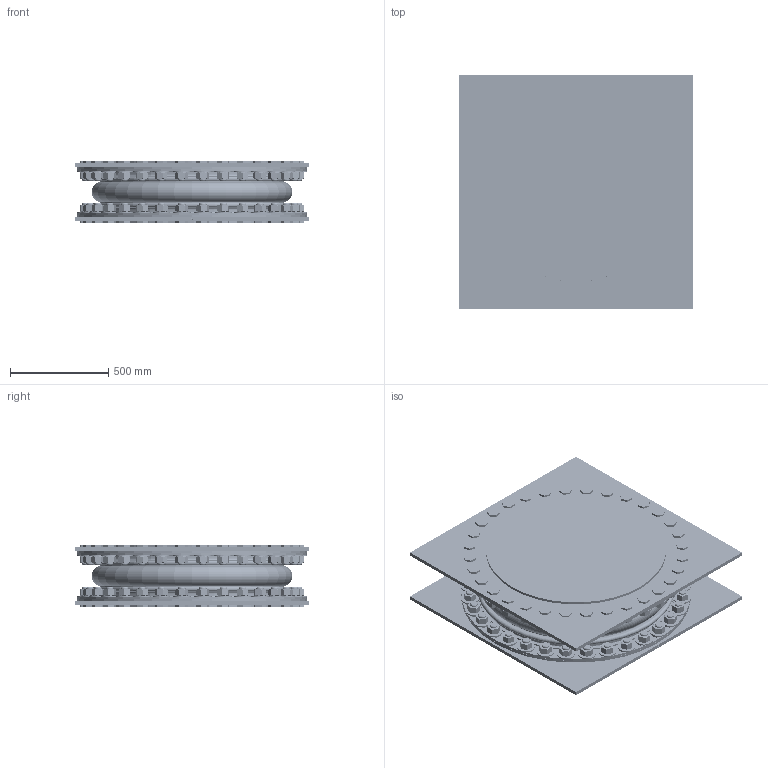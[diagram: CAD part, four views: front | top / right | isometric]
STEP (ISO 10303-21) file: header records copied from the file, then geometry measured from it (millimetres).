
FILE_DESCRIPTION(/* description */ (''),/* implementation_level */ '2;1');
FILE_NAME(/* name */ '\\Mleuckthor2\cad-proe_solids\WEBSITE FILES 05.22.13\STEP\451AS\451AS-36.stp',/* time_stamp */ '2016-01-18T22:23:36-05:00',/* author */ ('rramoutar'),/* organization */ ('Mason Industries Inc.'),/* preprocessor_version */ 'ST-DEVELOPER v15.6',/* originating_system */ 'Autodesk Inventor 2015',/* authorisation */ '');
FILE_SCHEMA (('CONFIG_CONTROL_DESIGN'));
Products named in the file (1): 451AS-36
Bounding box: 1193.8 x 1193.8 x 317.5 mm (x, y, z)
Volume: 116917300 mm3; surface area: 17672562.4 mm2
Topology: 200 solids, 202 shells, 4790 faces, 10948 edges, 6738 vertices
Faces by surface type: plane 1892, cylinder 1558, cone 1024, bspline 234, torus 82
Full cylindrical faces by diameter (mm): 11.112 x1, 12.7 x2, 25.4 x1, 33.528 x64, 38.1 x64, 39.675 x64, 41.275 x576, 57.15 x64, 88.9 x64, 304.8 x1, 323.85 x1, 914.4 x4, 938.403 x2, 941.387 x2, 946.15 x2, 960.438 x2, 1168.4 x4
Entity records: 131867 total; most frequent: CARTESIAN_POINT 27695, DIRECTION 20693, ORIENTED_EDGE 18868, EDGE_CURVE 9434, AXIS2_PLACEMENT_3D 8711, EDGE_LOOP 6880, VERTEX_POINT 6480, STYLED_ITEM 4990
